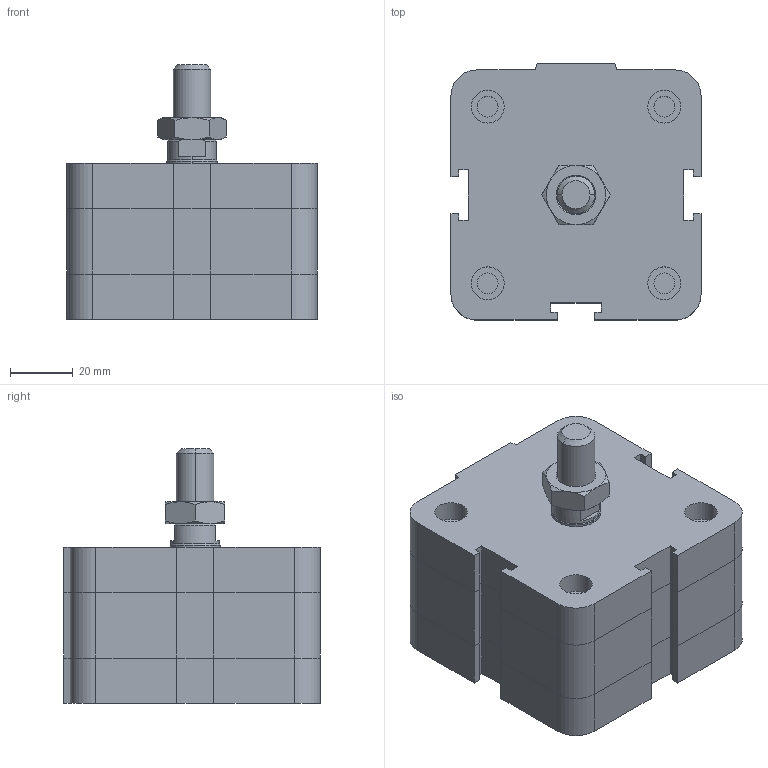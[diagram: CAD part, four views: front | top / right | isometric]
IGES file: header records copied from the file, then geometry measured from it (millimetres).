
Global section: file name: No Iges File Name specified; native system: Autodesk Inventor 2009; preprocessor: AutoDesk Inventor Iges Exporter R2009; author: rivolro1; date: 20081219.160439; units: millimetre
Bounding box: 80 x 82 x 81.5 mm (x, y, z)
Volume: 304282.2 mm3; surface area: 39710.1 mm2
Topology: 3 solids, 3 shells, 216 faces, 472 edges, 282 vertices
Faces by surface type: plane 121, bspline 37, cylinder 20, cone 20, revolution 18
